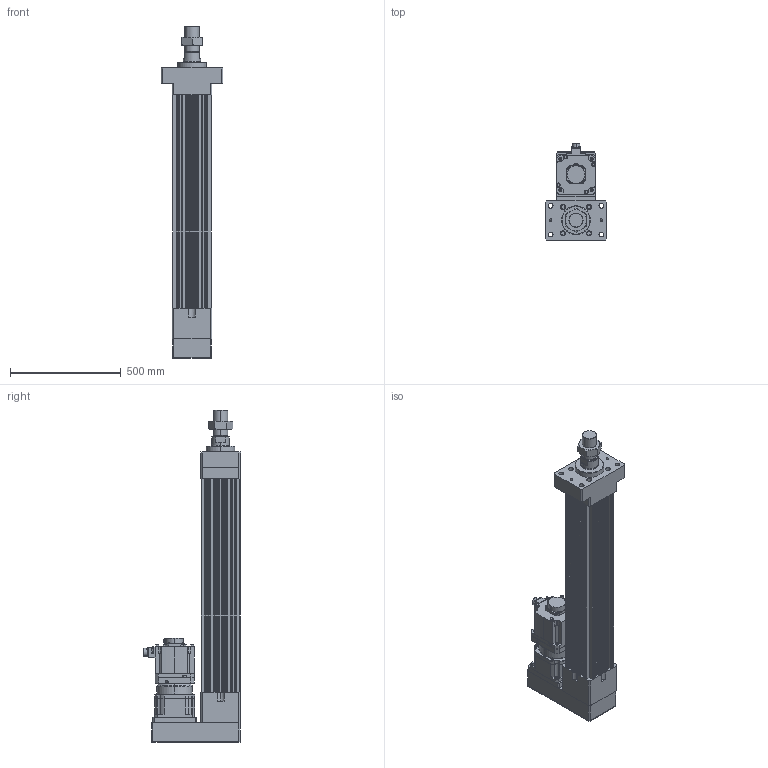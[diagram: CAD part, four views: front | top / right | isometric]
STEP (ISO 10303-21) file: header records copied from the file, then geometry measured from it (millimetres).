
FILE_DESCRIPTION (( 'STEP AP203' ), '1' );
FILE_NAME ('HES180HS-P650-W050G00-M-FMA.STEP', '2023-02-01T08:24:20', ( 'tms' ), ( '' ), 'SwSTEP 2.0', 'SolidWorks 2013', '' );
FILE_SCHEMA (( 'CONFIG_CONTROL_DESIGN' ));
Length unit declared in the file: millimetre
Products named in the file (9): HES180HS-P650-W050G00-M-FMA; AB1801; P0403600401; M64X2.0P; AB180-003[HG-SR702B]; HG-SR502; HES180-P650-G180-FMA; HES180 ROD M ST650; P1301600001
Assembly tree (8 placements, depth 3):
  HES180HS-P650-W050G00-M-FMA
    HES180-P650-G180-FMA
    HES180 ROD M ST650
    M64X2.0P
    AB180-003[HG-SR702B]
      AB1801
      P1301600001
      P0403600401
    HG-SR502
Bounding box: 280 x 438.85 x 1502 mm (x, y, z)
Volume: 32647973.9 mm3; surface area: 2870001.1 mm2
Topology: 4 solids, 19 shells, 1431 faces, 3715 edges, 2410 vertices
Faces by surface type: cylinder 663, plane 555, cone 146, bspline 63, torus 4
Entity records: 52578 total; most frequent: CARTESIAN_POINT 15982, DIRECTION 7693, ORIENTED_EDGE 7330, EDGE_CURVE 3689, AXIS2_PLACEMENT_3D 2901, VERTEX_POINT 2410, LINE 1891, VECTOR 1891
